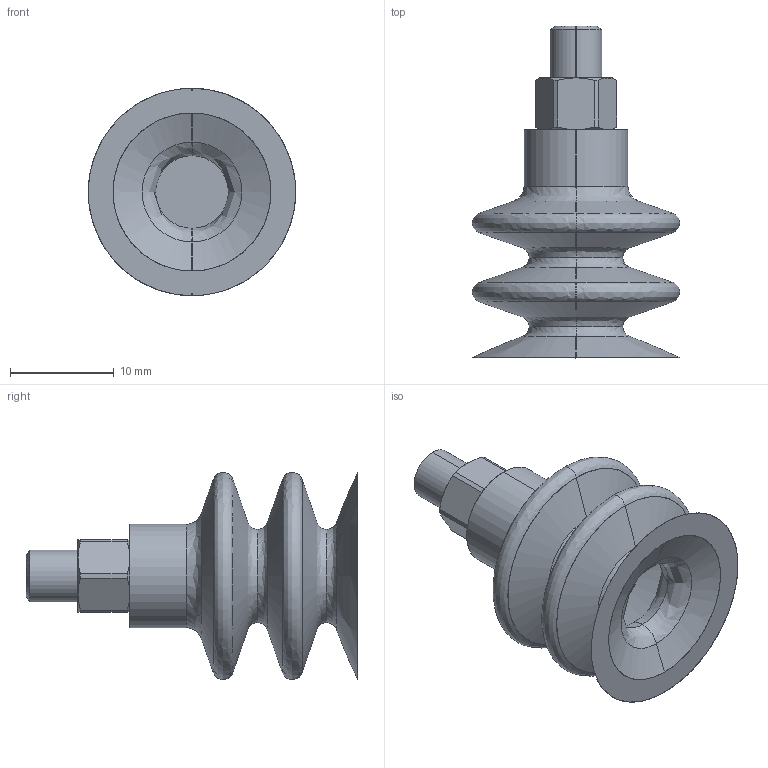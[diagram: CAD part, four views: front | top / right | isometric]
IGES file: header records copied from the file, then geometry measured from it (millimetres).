
Start section: SolidWorks IGES file using analytic representation for surfaces
Global section: file name: E:\eins\20070625石神\シュマルツ\SFSGシリーズ\183915.IGS; native system: SolidWorks 2006 by SolidWorks Corporation; preprocessor: SolidWorks 2006 by SolidWorks Corporation; author: CAD54; date: 070625.174412; units: millimetre
Bounding box: 20 x 32 x 20 mm (x, y, z)
Surface area: 3612.9 mm2 (no closed solid volume)
Topology: 0 solids, 0 shells, 84 faces, 700 edges, 700 vertices
Faces by surface type: bspline 46, revolution 38
